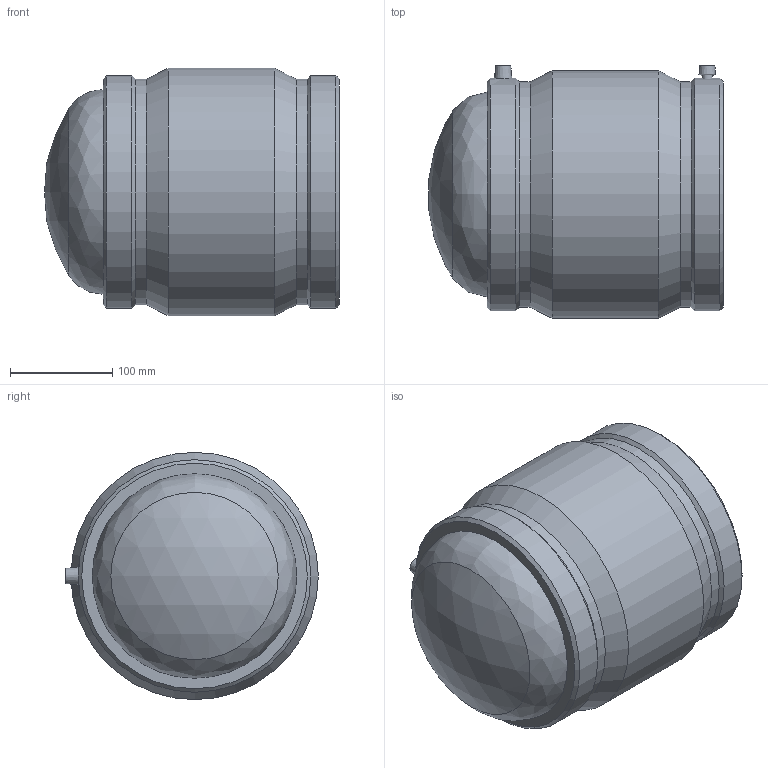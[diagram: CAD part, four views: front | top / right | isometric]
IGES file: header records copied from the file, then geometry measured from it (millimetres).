
Global section: file name: 491204200.ipt; native system: Autodesk Inventor 2015; preprocessor: unknown; author: KIM; date: 20171106.093800; units: millimetre
Bounding box: 288.31 x 247 x 242 mm (x, y, z)
Volume: 4675567.3 mm3; surface area: 414754.8 mm2
Topology: 2 solids, 3 shells, 40 faces, 84 edges, 58 vertices
Faces by surface type: plane 12, revolution 11, cylinder 8, cone 8, sphere 1
Full cylindrical faces by diameter (mm): 4 x2, 200 x1, 220.656 x2, 227.48 x2, 242 x1
